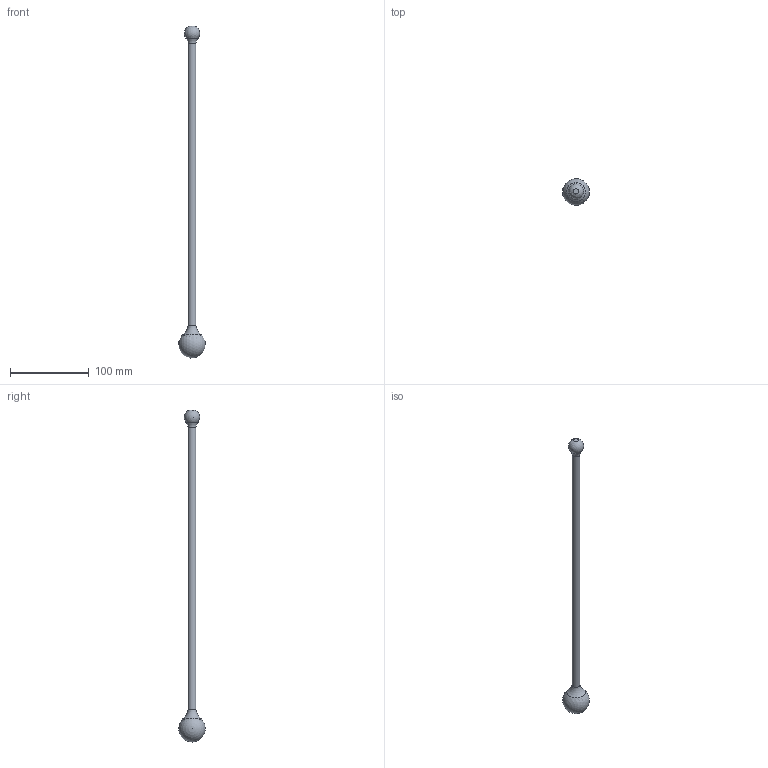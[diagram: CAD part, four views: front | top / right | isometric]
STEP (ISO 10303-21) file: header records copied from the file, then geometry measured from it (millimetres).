
FILE_DESCRIPTION(/* description */ (''),/* implementation_level */ '2;1');
FILE_NAME(/* name */ 'C:\Users\STEFANO\Desktop\3D SEM\1704-21 - STORM SOSPENSIONE MEDIUM F.E\SEM.000028.stp',/* time_stamp */ '2019-09-16T09:29:47+02:00',/* author */ ('STEFANO'),/* organization */ (''),/* preprocessor_version */ 'ST-DEVELOPER v17',/* originating_system */ 'Autodesk Inventor 2019',/* authorisation */ '');
FILE_SCHEMA (('AUTOMOTIVE_DESIGN { 1 0 10303 214 3 1 1 }'));
Length unit declared in the file: millimetre
Products named in the file (5): 16492_ASSY.04 VERS.BARTOLI 2_TOP; 16492_055.02; 16492_048.01; 16492_049.02; 16492_050.01
Assembly tree (4 placements, depth 2):
  16492_ASSY.04 VERS.BARTOLI 2_TOP
    16492_055.02
    16492_048.01
    16492_049.02
    16492_050.01
Bounding box: 34 x 33.75 x 421.22 mm (x, y, z)
Volume: 54102.8 mm3; surface area: 17493 mm2
Topology: 4 solids, 4 shells, 13 faces, 32 edges, 24 vertices
Faces by surface type: plane 7, cylinder 2, torus 2, sphere 2
Full cylindrical faces by diameter (mm): 10 x1, 23.6 x1
Entity records: 575 total; most frequent: DIRECTION 98, CARTESIAN_POINT 74, ORIENTED_EDGE 56, AXIS2_PLACEMENT_3D 48, EDGE_CURVE 28, CIRCLE 26, VERTEX_POINT 24, EDGE_LOOP 14
